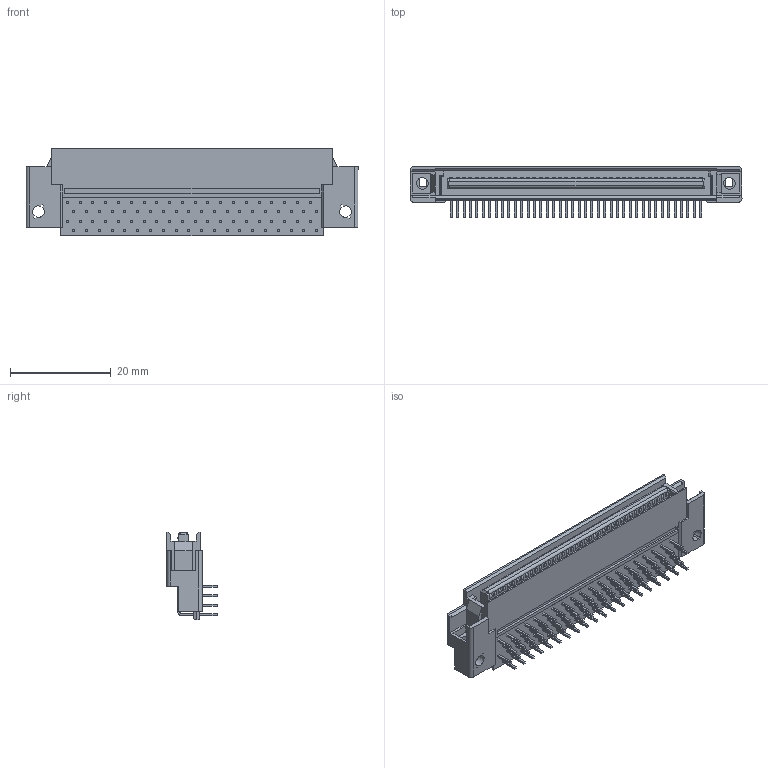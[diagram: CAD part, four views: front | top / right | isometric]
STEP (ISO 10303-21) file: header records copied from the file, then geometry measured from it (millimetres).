
FILE_DESCRIPTION(('Creo Elements/Direct Modeling STEP Export'),'2;1');
FILE_NAME('P3D810_8830E-080-170L-F.stp','2023-03-29T15:26:23',(''),(''),'Creo Elements/Direct Modeling STEP processor for AP214 (Solid Model)','Creo Elements/Direct Modeling 20.4A 18-Oct-2021 (C) Parametric Technology GmbH','');
FILE_SCHEMA(('AUTOMOTIVE_DESIGN { 1 0 10303 214 1 1 1 1 }'));
Products named in the file (2): 8830E-080-170L-F
Assembly tree (1 placements, depth 2):
  8830E-080-170L-F
    8830E-080-170L-F
Bounding box: 65.93 x 10 x 17.4 mm (x, y, z)
Volume: 3315 mm3; surface area: 6721.3 mm2
Topology: 1 solids, 1 shells, 2814 faces, 7447 edges, 4956 vertices
Faces by surface type: plane 2560, cylinder 254
Entity records: 83744 total; most frequent: ORIENTED_EDGE 14894, CARTESIAN_POINT 14673, DIRECTION 12877, EDGE_CURVE 7447, VECTOR 6557, LINE 6557, VERTEX_POINT 4956, EDGE_LOOP 3303
